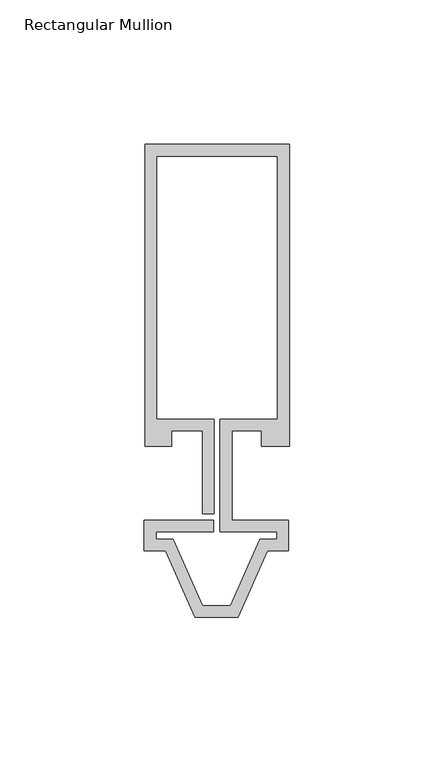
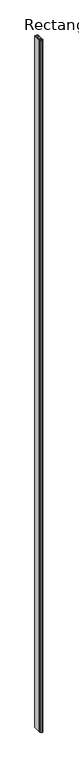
"""IFC4 building model written with IfcOpenShell, lengths in millimetres: member geometry, Rectangular Mullion : Reynaers_CW-50_Transom-Transom_Vertical_104.5mm_Facecap-04."""

from ifc_helpers import new_model, si_unit, frame, origin, place, context, project, spatial, polyline, outline, extrude, source, transform, mapped, element, save


def rectangular_mullion_3407b3df(model_context):
    return source(origin(), model_context, "Body", "SweptSolid", [
        extrude(outline(polyline([(25.1995941, 12.7331291), (15.499, 12.7331291), (15.499, 18.1331291), (5.2995941, 18.1331291), (5.2995941, -12.7331291), (24.994845, -12.7331291), (24.994845, -23.3331291), (17.6543638, -23.3331291), (7.3695812, -46.4331291), (-7.3695812, -46.4331291), (-17.6543638, -23.3331291), (-24.994845, -23.3331291), (-24.994845, -12.7331291), (-1.0995941, -12.7331291), (-1.0995941, -16.7331291), (-20.994845, -16.7331291), (-20.994845, -19.3331291), (-15.0567334, -19.3331291), (-4.7719508, -42.4331291), (4.7719508, -42.4331291), (15.0567334, -19.3331291), (20.994845, -19.3331291), (20.994845, -16.7331291), (1.2995941, -16.7331291), (1.2995941, 22.1331291), (21.1995941, 22.1331291), (21.1995941, 113.2331291), (-20.8004059, 113.2331291), (-20.8004059, 22.1331291), (-0.9004059, 22.1331291), (-0.9004059, -10.5), (-4.9004059, -10.5), (-4.9004059, 18.1331291), (-15.499, 18.1331291), (-15.499, 12.7331291), (-24.8004059, 12.7331291), (-24.8004059, 117.2331291), (25.1995941, 117.2331291), (25.1995941, 12.7331291)])), frame((0.0, 0.0, -12000.0), z_axis=(0.0, 0.0, 1.0), x_axis=(1.0, 0.0, 0.0)), (0.0, 0.0, 1.0), 12000.0),
    ])


if __name__ == "__main__":
    model = new_model("IFC4")
    model_context = context("Model", 3, world=origin())
    ifc_project = project(units=[si_unit("LENGTHUNIT", "METRE", prefix="MILLI")], contexts=[model_context])
    site = spatial("IfcSite", under=ifc_project)
    building = spatial("IfcBuilding", under=site)
    placement = place(None, origin())
    rectangular_mullion_shape = rectangular_mullion_3407b3df(model_context)
    element("IfcMember", 1, ObjectType="Rectangular Mullion : Reynaers_CW-50_Transom-Transom_Vertical_104.5mm_Facecap-04", at=placement, inside=building, context=model_context, shape_type="MappedRepresentation", body=[
        mapped(rectangular_mullion_shape, transform((0.0, 0.0, 0.0), x_axis=(1.0, 0.0, 0.0), y_axis=(0.0, 1.0, 0.0), z_axis=(0.0, 0.0, 1.0))),
    ])
    save(model, "model.ifc")
